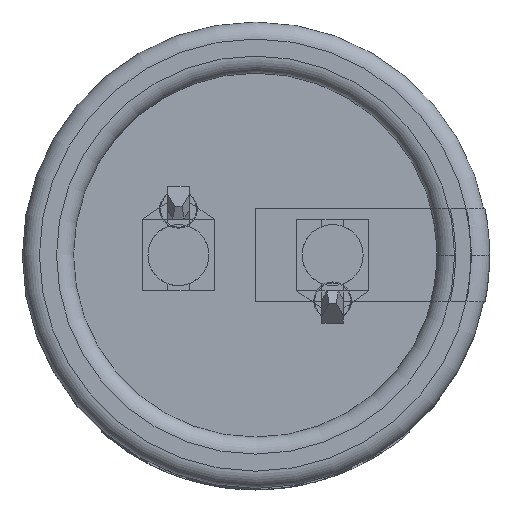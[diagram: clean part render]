
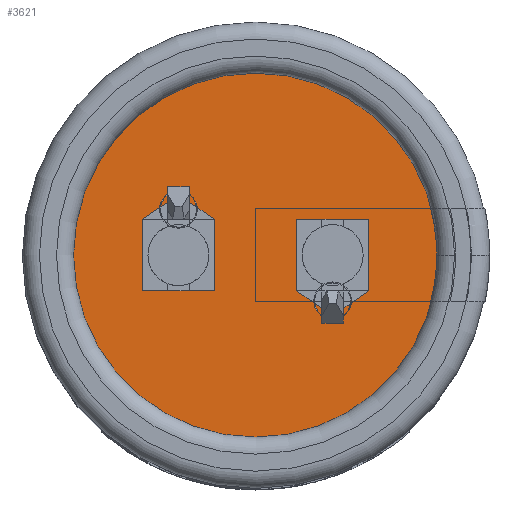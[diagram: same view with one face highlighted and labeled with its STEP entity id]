
A CAD part, top view. The second image highlights one B-rep face of the part: STEP entity #3621.
In plain terms, the highlighted planar face has unit normal (0, 0, 1).
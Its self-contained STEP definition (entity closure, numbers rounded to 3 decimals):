
#3528 = VERTEX_POINT('',#3529);
#3529 = CARTESIAN_POINT('',(10.15,0.,0.01));
#3536 = CYLINDRICAL_SURFACE('',#3537,10.15);
#3537 = AXIS2_PLACEMENT_3D('',#3538,#3539,#3540);
#3538 = CARTESIAN_POINT('',(0.,0.,0.));
#3539 = DIRECTION('',(0.,0.,-1.));
#3540 = DIRECTION('',(1.,0.,0.));
#3555 = EDGE_CURVE('',#3528,#3528,#3556,.T.);
#3556 = SURFACE_CURVE('',#3557,(#3562,#3569),.PCURVE_S1.);
#3557 = CIRCLE('',#3558,10.15);
#3558 = AXIS2_PLACEMENT_3D('',#3559,#3560,#3561);
#3559 = CARTESIAN_POINT('',(0.,0.,0.01));
#3560 = DIRECTION('',(0.,0.,1.));
#3561 = DIRECTION('',(1.,0.,0.));
#3562 = PCURVE('',#3536,#3563);
#3563 = DEFINITIONAL_REPRESENTATION('',(#3564),#3568);
#3564 = LINE('',#3565,#3566);
#3565 = CARTESIAN_POINT('',(0.,-0.01));
#3566 = VECTOR('',#3567,1.);
#3567 = DIRECTION('',(-1.,0.));
#3568 = ( GEOMETRIC_REPRESENTATION_CONTEXT(2) 
PARAMETRIC_REPRESENTATION_CONTEXT() REPRESENTATION_CONTEXT('2D SPACE',''
  ) );
#3569 = PCURVE('',#3570,#3575);
#3570 = PLANE('',#3571);
#3571 = AXIS2_PLACEMENT_3D('',#3572,#3573,#3574);
#3572 = CARTESIAN_POINT('',(10.15,0.,0.01));
#3573 = DIRECTION('',(0.,0.,-1.));
#3574 = DIRECTION('',(-1.,0.,0.));
#3575 = DEFINITIONAL_REPRESENTATION('',(#3576),#3584);
#3576 = ( BOUNDED_CURVE() B_SPLINE_CURVE(2,(#3577,#3578,#3579,#3580,
#3581,#3582,#3583),.UNSPECIFIED.,.F.,.F.) B_SPLINE_CURVE_WITH_KNOTS((1,2
    ,2,2,2,1),(-2.094,0.,2.094,4.189,
6.283,8.378),.UNSPECIFIED.) CURVE() 
GEOMETRIC_REPRESENTATION_ITEM() RATIONAL_B_SPLINE_CURVE((1.,0.5,1.,0.5,
1.,0.5,1.)) REPRESENTATION_ITEM('') );
#3577 = CARTESIAN_POINT('',(0.,0.));
#3578 = CARTESIAN_POINT('',(0.,17.58));
#3579 = CARTESIAN_POINT('',(15.225,8.79));
#3580 = CARTESIAN_POINT('',(30.45,0.));
#3581 = CARTESIAN_POINT('',(15.225,-8.79));
#3582 = CARTESIAN_POINT('',(0.,-17.58));
#3583 = CARTESIAN_POINT('',(0.,0.));
#3584 = ( GEOMETRIC_REPRESENTATION_CONTEXT(2) 
PARAMETRIC_REPRESENTATION_CONTEXT() REPRESENTATION_CONTEXT('2D SPACE',''
  ) );
#3621 = ADVANCED_FACE('',(#3622),#3570,.F.);
#3622 = FACE_BOUND('',#3623,.T.);
#3623 = EDGE_LOOP('',(#3624));
#3624 = ORIENTED_EDGE('',*,*,#3555,.T.);
